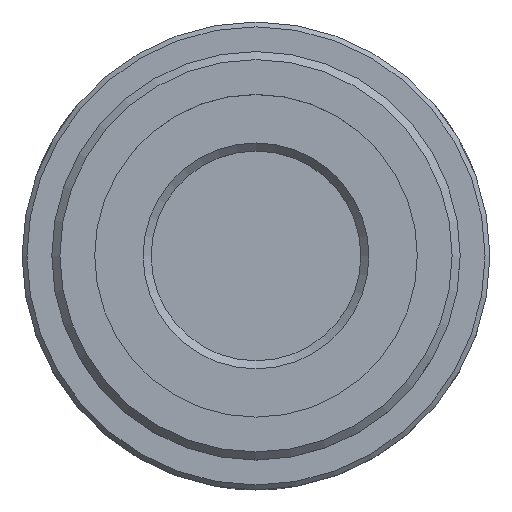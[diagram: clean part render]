
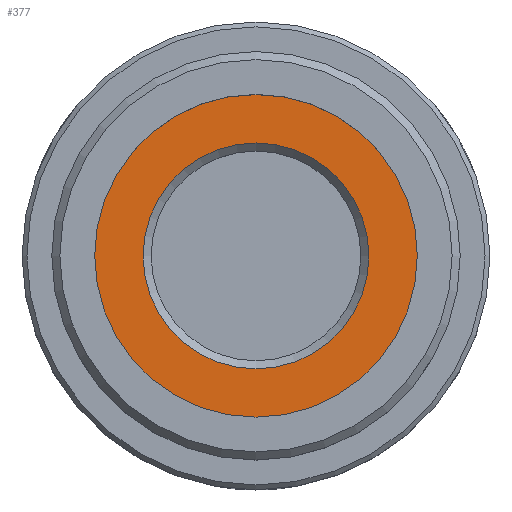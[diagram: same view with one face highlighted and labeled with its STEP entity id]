
A CAD part, top view. The second image highlights one B-rep face of the part: STEP entity #377.
In plain terms, the highlighted planar face has unit normal (0, 0, 1).
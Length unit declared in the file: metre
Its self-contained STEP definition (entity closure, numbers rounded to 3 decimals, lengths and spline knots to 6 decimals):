
#377=ADVANCED_FACE('NONE',(#1011,#1012),#1013,.F.);
#647=EDGE_CURVE('0:831',#1441,#1441,#1442,.T.);
#649=EDGE_CURVE('0:834',#1444,#1444,#1445,.T.);
#1011=FACE_BOUND('',#1905,.T.);
#1012=FACE_OUTER_BOUND('',#1906,.T.);
#1013=PLANE('',#1907);
#1441=VERTEX_POINT('',#2692);
#1442=CIRCLE('',#2693,0.007);
#1444=VERTEX_POINT('',#2696);
#1445=CIRCLE('',#2697,0.01);
#1905=EDGE_LOOP('',(#3457));
#1906=EDGE_LOOP('',(#3458));
#1907=AXIS2_PLACEMENT_3D('',#3459,#3460,#3461);
#2692=CARTESIAN_POINT('',(0.004439,0.004243,0.043541));
#2693=AXIS2_PLACEMENT_3D('',#4125,#4126,#4127);
#2696=CARTESIAN_POINT('',(0.001439,0.004243,0.043541));
#2697=AXIS2_PLACEMENT_3D('',#4128,#4129,#4130);
#3457=ORIENTED_EDGE('',*,*,#647,.T.);
#3458=ORIENTED_EDGE('',*,*,#649,.T.);
#3459=CARTESIAN_POINT('',(0.011439,0.014243,0.043541));
#3460=DIRECTION('',(0.,0.0,-1.0));
#3461=DIRECTION('',(0.0,-1.0,0.0));
#4125=CARTESIAN_POINT('',(0.011439,0.004243,0.043541));
#4126=DIRECTION('',(0.,0.0,-1.0));
#4127=DIRECTION('',(-1.0,0.0,0.));
#4128=CARTESIAN_POINT('',(0.011439,0.004243,0.043541));
#4129=DIRECTION('',(0.,-0.0,1.0));
#4130=DIRECTION('',(-1.0,0.0,0.));
